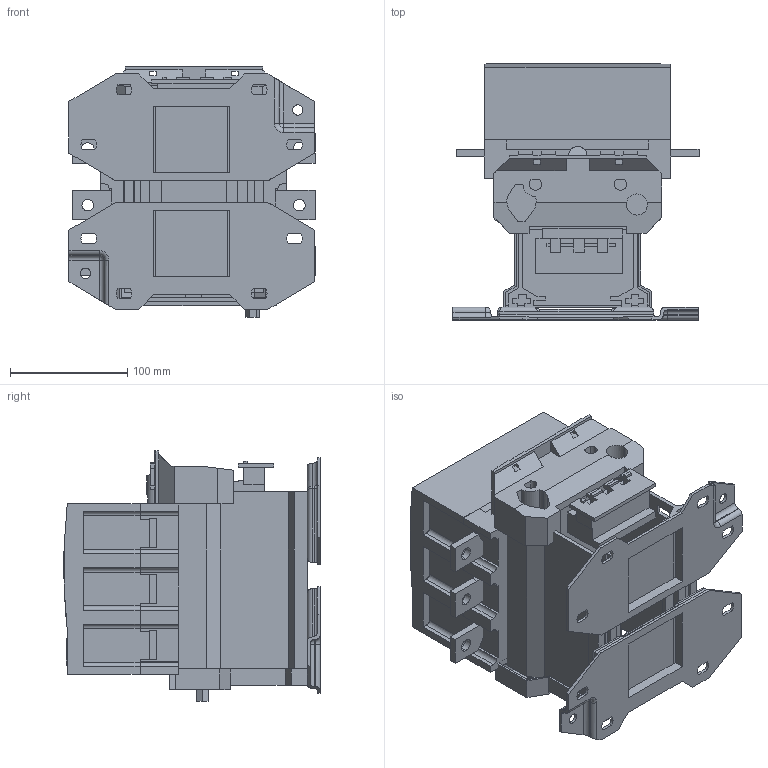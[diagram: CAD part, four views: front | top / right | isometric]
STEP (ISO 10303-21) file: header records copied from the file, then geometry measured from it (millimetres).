
FILE_DESCRIPTION (( 'STEP AP203' ), '1' );
FILE_NAME ('OptiStart LC1E400.STEP', '2024-02-21T11:20:09', ( '' ), ( '' ), 'SwSTEP 2.0', 'SolidWorks 2018', '' );
FILE_SCHEMA (( 'CONFIG_CONTROL_DESIGN' ));
Length unit declared in the file: millimetre
Products named in the file (1): OptiStart LC1E400
Bounding box: 209.6 x 218.42 x 213 mm (x, y, z)
Volume: 3088419 mm3; surface area: 513182.8 mm2
Topology: 15 solids, 15 shells, 851 faces, 2291 edges, 1476 vertices
Faces by surface type: plane 644, cylinder 171, bspline 18, torus 10, sphere 8
Entity records: 27944 total; most frequent: CARTESIAN_POINT 6531, ORIENTED_EDGE 4554, DIRECTION 4187, EDGE_CURVE 2277, LINE 1891, VECTOR 1891, VERTEX_POINT 1476, AXIS2_PLACEMENT_3D 1148
